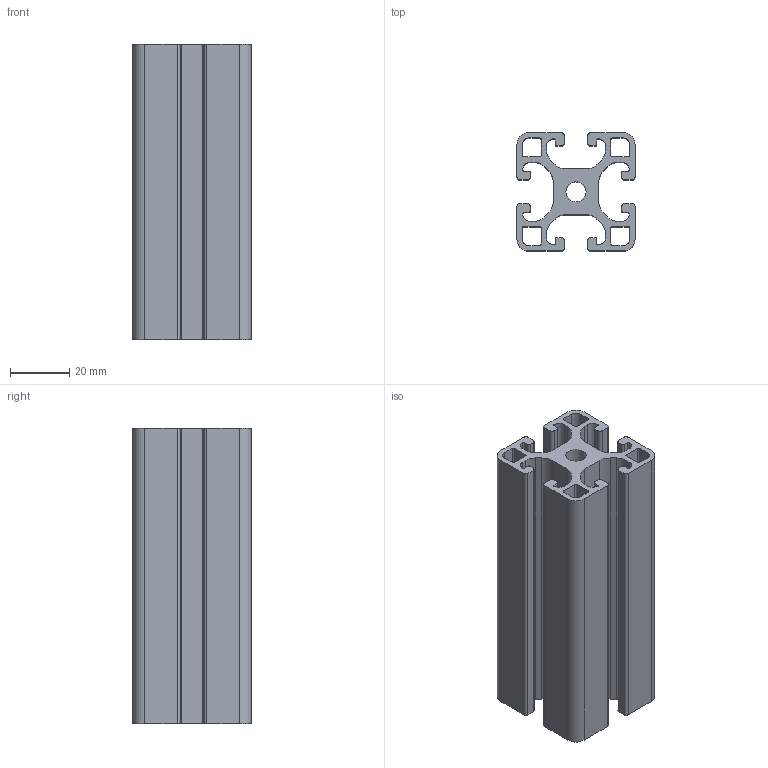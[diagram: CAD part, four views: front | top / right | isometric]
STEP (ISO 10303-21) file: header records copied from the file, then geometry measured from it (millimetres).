
FILE_DESCRIPTION(/* description */ (''),/* implementation_level */ '2;1');
FILE_NAME(/* name */ 'D:\Kereskedelem\Dropbox\Kereskedelem\Katalogusok\IPT katalógusok\Profil CAD 3D\IPT I 40x40 Light 100 mm.stp',/* time_stamp */ '2015-01-20T11:02:40+01:00',/* author */ ('MP'),/* organization */ ('IPT'),/* preprocessor_version */ 'ST-DEVELOPER v15.2',/* originating_system */ 'Autodesk Inventor 2014',/* authorisation */ '');
FILE_SCHEMA (('AUTOMOTIVE_DESIGN { 1 0 10303 214 3 1 1 }'));
Length unit declared in the file: millimetre
Products named in the file (1): IPT I 40x40 Light 100 mm
Bounding box: 40 x 40 x 100 mm (x, y, z)
Volume: 65916.2 mm3; surface area: 47508.6 mm2
Topology: 1 solids, 1 shells, 155 faces, 459 edges, 306 vertices
Faces by surface type: plane 78, cylinder 77
Full cylindrical faces by diameter (mm): 6.8 x1
Entity records: 5266 total; most frequent: DIRECTION 924, CARTESIAN_POINT 920, ORIENTED_EDGE 916, EDGE_CURVE 458, AXIS2_PLACEMENT_3D 310, VERTEX_POINT 306, LINE 304, VECTOR 304
